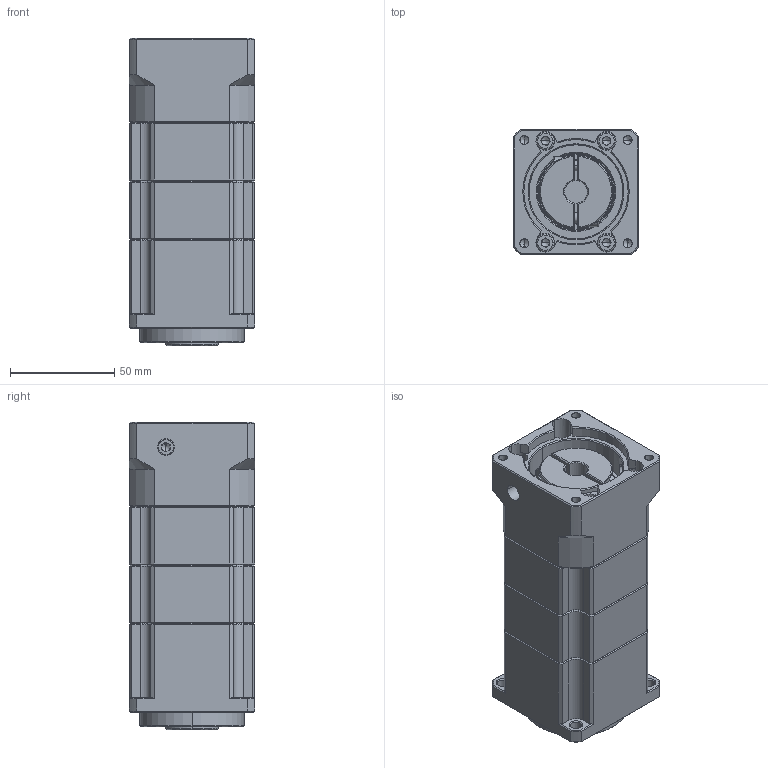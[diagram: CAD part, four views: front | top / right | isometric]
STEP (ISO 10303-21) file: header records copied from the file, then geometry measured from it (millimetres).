
FILE_DESCRIPTION (( 'STEP AP214' ), '1' );
FILE_NAME ('ZPB060-K16-L3-P1-11-50-70-M5.step', '2024-04-24T07:37:12', ( '' ), ( '' ), 'SwSTEP 2.0', 'SolidWorks 2016', '' );
FILE_SCHEMA (( 'AUTOMOTIVE_DESIGN' ));
Length unit declared in the file: millimetre
Products named in the file (1): ZPB060-K16-L3-P1-11-50-70-M5
Bounding box: 60 x 60 x 147.5 mm (x, y, z)
Volume: 423217.9 mm3; surface area: 77541.8 mm2
Topology: 13 solids, 14 shells, 1971 faces, 5515 edges, 3557 vertices
Faces by surface type: plane 1070, bspline 366, cylinder 227, cone 170, torus 92, sphere 46
Entity records: 100356 total; most frequent: CARTESIAN_POINT 31283, ORIENTED_EDGE 10760, DIRECTION 8256, EDGE_CURVE 5380, VERTEX_POINT 3488, LINE 3292, VECTOR 3292, AXIS2_PLACEMENT_3D 2482
